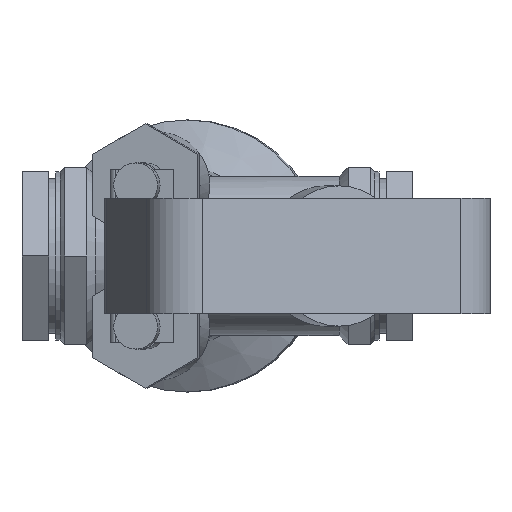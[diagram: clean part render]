
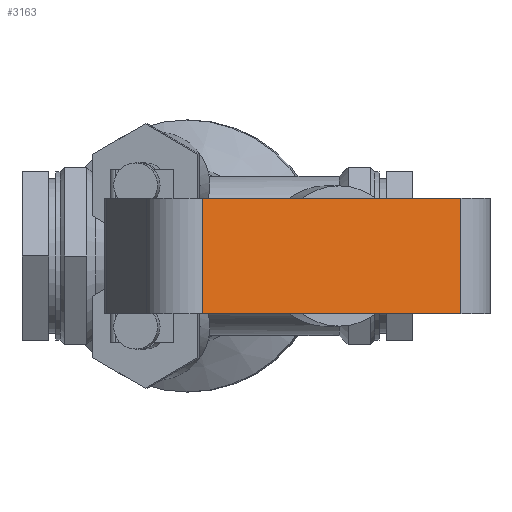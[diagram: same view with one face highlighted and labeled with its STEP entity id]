
A CAD part, front view. The second image highlights one B-rep face of the part: STEP entity #3163.
In plain terms, the highlighted planar face has unit normal (0.342, -0.94, 0).
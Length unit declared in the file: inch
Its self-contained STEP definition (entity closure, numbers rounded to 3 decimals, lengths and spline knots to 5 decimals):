
#112=PLANE('',#3499);
#252=FACE_OUTER_BOUND('',#437,.T.);
#437=EDGE_LOOP('',(#2220,#2221,#2222,#2223));
#630=LINE('',#5219,#880);
#637=LINE('',#5254,#887);
#638=LINE('',#5257,#888);
#639=LINE('',#5258,#889);
#880=VECTOR('',#3978,0.3937);
#887=VECTOR('',#4017,0.3937);
#888=VECTOR('',#4020,0.3937);
#889=VECTOR('',#4021,0.3937);
#1354=VERTEX_POINT('',#5216);
#1355=VERTEX_POINT('',#5218);
#1367=VERTEX_POINT('',#5252);
#1368=VERTEX_POINT('',#5256);
#1683=EDGE_CURVE('',#1354,#1355,#630,.T.);
#1700=EDGE_CURVE('',#1367,#1354,#637,.T.);
#1701=EDGE_CURVE('',#1368,#1367,#638,.T.);
#1702=EDGE_CURVE('',#1368,#1355,#639,.T.);
#2220=ORIENTED_EDGE('',*,*,#1700,.F.);
#2221=ORIENTED_EDGE('',*,*,#1701,.F.);
#2222=ORIENTED_EDGE('',*,*,#1702,.T.);
#2223=ORIENTED_EDGE('',*,*,#1683,.F.);
#3163=ADVANCED_FACE('',(#252),#112,.T.);
#3499=AXIS2_PLACEMENT_3D('',#5255,#4018,#4019);
#3978=DIRECTION('',(-0.94,-0.342,0.));
#4017=DIRECTION('',(0.,0.,-1.));
#4018=DIRECTION('center_axis',(0.342,-0.94,0.));
#4019=DIRECTION('ref_axis',(0.94,0.342,0.));
#4020=DIRECTION('',(0.94,0.342,0.));
#4021=DIRECTION('',(0.,0.,-1.));
#5216=CARTESIAN_POINT('',(2.74901,-5.24894,-0.65));
#5218=CARTESIAN_POINT('',(-0.16581,-6.30985,-0.65));
#5219=CARTESIAN_POINT('',(2.74901,-5.24894,-0.65));
#5252=CARTESIAN_POINT('',(2.74901,-5.24894,0.65));
#5254=CARTESIAN_POINT('',(2.74901,-5.24894,0.));
#5255=CARTESIAN_POINT('Origin',(-0.16581,-6.30985,0.));
#5256=CARTESIAN_POINT('',(-0.16581,-6.30985,0.65));
#5257=CARTESIAN_POINT('',(2.74901,-5.24894,0.65));
#5258=CARTESIAN_POINT('',(-0.16581,-6.30985,0.));
